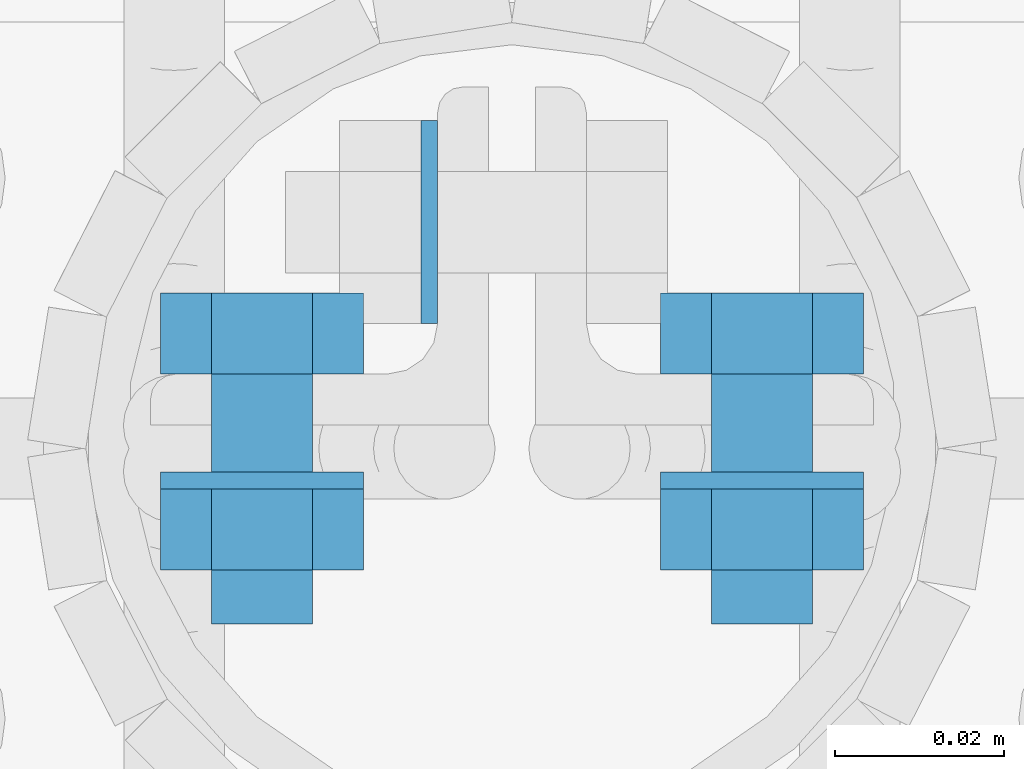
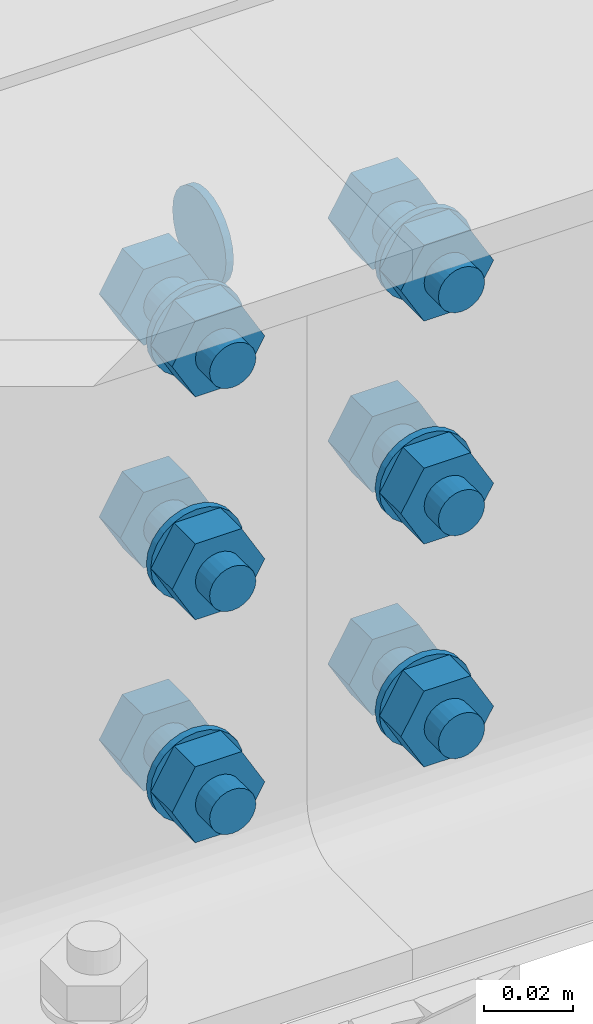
# One storey, part 47 of 84: 25 mechanical fasteners.
"""IFC4 building model written with IfcOpenShell, lengths in metres."""

from ifc_helpers import new_model, si_unit, frame, origin_with_axes, place, context, project, spatial, polyline, outline, extrude, type_object, element, save


model = new_model("IFC4")

# Units and contexts
model_context = context("Model", 3, precision=1e-05, world=origin_with_axes())
ifc_project = project(units=[si_unit("LENGTHUNIT", "METRE"), si_unit("AREAUNIT", "SQUARE_METRE"), si_unit("VOLUMEUNIT", "CUBIC_METRE"), si_unit("MASSUNIT", "GRAM", prefix="KILO"), si_unit("TIMEUNIT", "SECOND"), si_unit("PLANEANGLEUNIT", "RADIAN"), si_unit("SOLIDANGLEUNIT", "STERADIAN"), si_unit("THERMODYNAMICTEMPERATUREUNIT", "DEGREE_CELSIUS")], contexts=[model_context])

# Site, building, storey
placement_1 = place(None, origin_with_axes())
site = spatial("IfcSite", under=ifc_project, at=placement_1, Name="Italia", CompositionType="ELEMENT")
building = spatial("IfcBuilding", under=site, at=placement_1, Name="Tettoia", CompositionType="ELEMENT")
storey_placement = place(None, frame((0.0, 0.0, 4.199999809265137), z_axis=(0.0, 0.0, 1.0), x_axis=(1.0, 0.0, 0.0)))
storey = spatial("IfcBuildingStorey", under=building, at=storey_placement, Name="Storey 1", CompositionType="ELEMENT", Elevation=4.199999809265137)

# Mechanical fasteners
mechanical_fastener_type_1 = type_object("IfcMechanicalFastenerType", Name="Collegamento 0108_0112", PredefinedType="BOLT")
placement_2 = place(placement_1, origin_with_axes())
mechanical_fastener_1_placement = place(placement_2, origin_with_axes())
element("IfcMechanicalFastener", 1, at=mechanical_fastener_1_placement, inside=storey, type_object=mechanical_fastener_type_1, Name="Collegamento 0108_0112", NominalDiameter=0.024, context=model_context, shape_type="SweptSolid", body=[
    extrude(outline(polyline([(0.0, 0.0), (-0.000409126, -0.00310564), (-0.00160789, -0.00600004), (-0.00351524, -0.00848532), (-0.00600052, -0.0103922), (-0.00889397, -0.011591), (-0.0120001, -0.0120001), (-0.0151062, -0.011591), (-0.0179996, -0.0103922), (-0.0204849, -0.00848532), (-0.0223923, -0.00600004), (-0.023591, -0.00310564), (-0.0240002, 0.0), (-0.023591, 0.00310564), (-0.0223923, 0.00600004), (-0.0204849, 0.00848532), (-0.0179996, 0.0103922), (-0.0151062, 0.011591), (-0.0120001, 0.0120001), (-0.00889397, 0.011591), (-0.00600052, 0.0103922), (-0.00351524, 0.00848532), (-0.00160789, 0.00600004), (-0.000409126, 0.00310564), (0.0, 0.0)])), frame((4.0592, 10.0088, 4.361), z_axis=(1.0, 0.0, 0.0), x_axis=(0.0, 1.0, 0.0)), (0.0, 0.0, 1.0), 0.00199986),
])
mechanical_fastener_type_2 = type_object("IfcMechanicalFastenerType", Name="Collegamento 0108_0112", PredefinedType="BOLT")
mechanical_fastener_2_placement = place(placement_2, origin_with_axes())
element("IfcMechanicalFastener", 2, at=mechanical_fastener_2_placement, inside=storey, type_object=mechanical_fastener_type_2, Name="Collegamento 0108_0112", NominalDiameter=0.0119999, context=model_context, shape_type="SweptSolid", body=[
    extrude(outline(polyline([(0.0, 0.0), (-0.0120001, 0.0), (-0.0180001, 0.0103927), (-0.0120001, 0.0207849), (0.0, 0.0207849), (0.00600004, 0.0103927), (0.0, 0.0)])), frame((4.0344, 9.9788, 4.22861), z_axis=(0.0, 1.0, 0.0), x_axis=(-1.0, 0.0, 0.0)), (0.0, 0.0, 1.0), 0.00960064),
])
mechanical_fastener_type_3 = type_object("IfcMechanicalFastenerType", Name="Collegamento 0108_0112", PredefinedType="BOLT")
mechanical_fastener_3_placement = place(placement_2, origin_with_axes())
element("IfcMechanicalFastener", 3, at=mechanical_fastener_3_placement, inside=storey, type_object=mechanical_fastener_type_3, Name="Collegamento 0108_0112", NominalDiameter=0.012, context=model_context, shape_type="SweptSolid", body=[
    extrude(outline(polyline([(0.0, 0.0), (-0.000204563, -0.00155306), (-0.000803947, -0.00299978), (-0.00175762, -0.00424242), (-0.00300026, -0.00519609), (-0.00444698, -0.00579548), (-0.00600004, -0.00600004), (-0.0075531, -0.00579548), (-0.00899982, -0.00519609), (-0.0102425, -0.00424242), (-0.0111961, -0.00299978), (-0.0117955, -0.00155306), (-0.0120001, 0.0), (-0.0117955, 0.00155306), (-0.0111961, 0.00299978), (-0.0102425, 0.00424242), (-0.00899982, 0.00519609), (-0.0075531, 0.00579548), (-0.00600004, 0.00600004), (-0.00444698, 0.00579548), (-0.00300026, 0.00519609), (-0.00175762, 0.00424242), (-0.000803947, 0.00299978), (-0.000204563, 0.00155306), (0.0, 0.0)])), frame((4.0344, 9.9492, 4.239), z_axis=(0.0, 1.0, 0.0), x_axis=(-1.0, 0.0, 0.0)), (0.0, 0.0, 1.0), 0.0295992),
])
mechanical_fastener_type_4 = type_object("IfcMechanicalFastenerType", Name="Collegamento 0108_0112", PredefinedType="BOLT")
mechanical_fastener_4_placement = place(placement_2, origin_with_axes())
element("IfcMechanicalFastener", 4, at=mechanical_fastener_4_placement, inside=storey, type_object=mechanical_fastener_type_4, Name="Collegamento 0108_0112", NominalDiameter=0.0119999, context=model_context, shape_type="SweptSolid", body=[
    extrude(outline(polyline([(0.0, 0.0), (-0.0120001, 0.0), (-0.0180001, 0.0103927), (-0.0120001, 0.0207849), (0.0, 0.0207849), (0.00600004, 0.0103927), (0.0, 0.0)])), frame((4.0344, 9.9556, 4.22861), z_axis=(0.0, 1.0, 0.0), x_axis=(-1.0, 0.0, 0.0)), (0.0, 0.0, 1.0), 0.00960064),
])
mechanical_fastener_type_5 = type_object("IfcMechanicalFastenerType", Name="Collegamento 0108_0112", PredefinedType="BOLT")
mechanical_fastener_5_placement = place(placement_2, origin_with_axes())
element("IfcMechanicalFastener", 5, at=mechanical_fastener_5_placement, inside=storey, type_object=mechanical_fastener_type_5, Name="Collegamento 0108_0112", NominalDiameter=0.024, context=model_context, shape_type="SweptSolid", body=[
    extrude(outline(polyline([(0.0, 0.0), (-0.000409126, -0.00310564), (-0.00160789, -0.00600004), (-0.00351477, -0.00848532), (-0.00600004, -0.0103922), (-0.00889444, -0.011591), (-0.0120001, -0.0120001), (-0.0151057, -0.011591), (-0.0180001, -0.0103922), (-0.0204854, -0.00848532), (-0.0223923, -0.00600004), (-0.023591, -0.00310564), (-0.0240002, 0.0), (-0.023591, 0.00310564), (-0.0223923, 0.00600004), (-0.0204854, 0.00848532), (-0.0180001, 0.0103922), (-0.0151057, 0.011591), (-0.0120001, 0.0120001), (-0.00889444, 0.011591), (-0.00600004, 0.0103922), (-0.00351477, 0.00848532), (-0.00160789, 0.00600004), (-0.000409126, 0.00310564), (0.0, 0.0)])), frame((4.0284, 9.9652, 4.239), z_axis=(0.0, 1.0, 0.0), x_axis=(-1.0, 0.0, 0.0)), (0.0, 0.0, 1.0), 0.00199986),
])
mechanical_fastener_type_6 = type_object("IfcMechanicalFastenerType", Name="Collegamento 0108_0112", PredefinedType="BOLT")
mechanical_fastener_6_placement = place(placement_2, origin_with_axes())
element("IfcMechanicalFastener", 6, at=mechanical_fastener_6_placement, inside=storey, type_object=mechanical_fastener_type_6, Name="Collegamento 0108_0112", NominalDiameter=0.0119999, context=model_context, shape_type="SweptSolid", body=[
    extrude(outline(polyline([(0.0, 0.0), (-0.0120001, 0.0), (-0.0180001, 0.0103922), (-0.0120001, 0.0207844), (0.0, 0.0207844), (0.00600004, 0.0103922), (0.0, 0.0)])), frame((4.0344, 9.9788, 4.28961), z_axis=(0.0, 1.0, 0.0), x_axis=(-1.0, 0.0, 0.0)), (0.0, 0.0, 1.0), 0.00960064),
])
mechanical_fastener_type_7 = type_object("IfcMechanicalFastenerType", Name="Collegamento 0108_0112", PredefinedType="BOLT")
mechanical_fastener_7_placement = place(placement_2, origin_with_axes())
element("IfcMechanicalFastener", 7, at=mechanical_fastener_7_placement, inside=storey, type_object=mechanical_fastener_type_7, Name="Collegamento 0108_0112", NominalDiameter=0.012, context=model_context, shape_type="SweptSolid", body=[
    extrude(outline(polyline([(0.0, 0.0), (-0.000204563, -0.00155306), (-0.000803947, -0.00299978), (-0.00175762, -0.00424242), (-0.00300026, -0.00519609), (-0.00444698, -0.00579548), (-0.00600004, -0.00600004), (-0.0075531, -0.00579548), (-0.00899982, -0.00519609), (-0.0102425, -0.00424242), (-0.0111961, -0.00299978), (-0.0117955, -0.00155306), (-0.0120001, 0.0), (-0.0117955, 0.00155306), (-0.0111961, 0.00299978), (-0.0102425, 0.00424242), (-0.00899982, 0.00519609), (-0.0075531, 0.00579548), (-0.00600004, 0.00600004), (-0.00444698, 0.00579548), (-0.00300026, 0.00519609), (-0.00175762, 0.00424242), (-0.000803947, 0.00299978), (-0.000204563, 0.00155306), (0.0, 0.0)])), frame((4.0344, 9.9492, 4.3), z_axis=(0.0, 1.0, 0.0), x_axis=(-1.0, 0.0, 0.0)), (0.0, 0.0, 1.0), 0.0295992),
])
mechanical_fastener_type_8 = type_object("IfcMechanicalFastenerType", Name="Collegamento 0108_0112", PredefinedType="BOLT")
mechanical_fastener_8_placement = place(placement_2, origin_with_axes())
element("IfcMechanicalFastener", 8, at=mechanical_fastener_8_placement, inside=storey, type_object=mechanical_fastener_type_8, Name="Collegamento 0108_0112", NominalDiameter=0.0119999, context=model_context, shape_type="SweptSolid", body=[
    extrude(outline(polyline([(0.0, 0.0), (-0.0120001, 0.0), (-0.0180001, 0.0103922), (-0.0120001, 0.0207844), (0.0, 0.0207844), (0.00600004, 0.0103922), (0.0, 0.0)])), frame((4.0344, 9.9556, 4.28961), z_axis=(0.0, 1.0, 0.0), x_axis=(-1.0, 0.0, 0.0)), (0.0, 0.0, 1.0), 0.00960064),
])
mechanical_fastener_type_9 = type_object("IfcMechanicalFastenerType", Name="Collegamento 0108_0112", PredefinedType="BOLT")
mechanical_fastener_9_placement = place(placement_2, origin_with_axes())
element("IfcMechanicalFastener", 9, at=mechanical_fastener_9_placement, inside=storey, type_object=mechanical_fastener_type_9, Name="Collegamento 0108_0112", NominalDiameter=0.024, context=model_context, shape_type="SweptSolid", body=[
    extrude(outline(polyline([(0.0, 0.0), (-0.000409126, -0.00310564), (-0.00160789, -0.00600004), (-0.00351477, -0.00848532), (-0.00600004, -0.0103922), (-0.00889444, -0.011591), (-0.0120001, -0.0120001), (-0.0151057, -0.011591), (-0.0180001, -0.0103922), (-0.0204854, -0.00848532), (-0.0223923, -0.00600004), (-0.023591, -0.00310564), (-0.0240002, 0.0), (-0.023591, 0.00310564), (-0.0223923, 0.00600004), (-0.0204854, 0.00848532), (-0.0180001, 0.0103922), (-0.0151057, 0.011591), (-0.0120001, 0.0120001), (-0.00889444, 0.011591), (-0.00600004, 0.0103922), (-0.00351477, 0.00848532), (-0.00160789, 0.00600004), (-0.000409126, 0.00310564), (0.0, 0.0)])), frame((4.0284, 9.9652, 4.3), z_axis=(0.0, 1.0, 0.0), x_axis=(-1.0, 0.0, 0.0)), (0.0, 0.0, 1.0), 0.00199986),
])
mechanical_fastener_type_10 = type_object("IfcMechanicalFastenerType", Name="Collegamento 0108_0112", PredefinedType="BOLT")
mechanical_fastener_10_placement = place(placement_2, origin_with_axes())
element("IfcMechanicalFastener", 10, at=mechanical_fastener_10_placement, inside=storey, type_object=mechanical_fastener_type_10, Name="Collegamento 0108_0112", NominalDiameter=0.0119999, context=model_context, shape_type="SweptSolid", body=[
    extrude(outline(polyline([(0.0, 0.0), (-0.0120001, 0.0), (-0.0180001, 0.0103922), (-0.0120001, 0.0207849), (0.0, 0.0207849), (0.00600004, 0.0103922), (0.0, 0.0)])), frame((4.0344, 9.9788, 4.35061), z_axis=(0.0, 1.0, 0.0), x_axis=(-1.0, 0.0, 0.0)), (0.0, 0.0, 1.0), 0.00960064),
])
mechanical_fastener_type_11 = type_object("IfcMechanicalFastenerType", Name="Collegamento 0108_0112", PredefinedType="BOLT")
mechanical_fastener_11_placement = place(placement_2, origin_with_axes())
element("IfcMechanicalFastener", 11, at=mechanical_fastener_11_placement, inside=storey, type_object=mechanical_fastener_type_11, Name="Collegamento 0108_0112", NominalDiameter=0.012, context=model_context, shape_type="SweptSolid", body=[
    extrude(outline(polyline([(0.0, 0.0), (-0.000204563, -0.00155306), (-0.000803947, -0.00299978), (-0.00175762, -0.00424242), (-0.00300026, -0.00519609), (-0.00444698, -0.00579548), (-0.00600004, -0.00600004), (-0.0075531, -0.00579548), (-0.00899982, -0.00519609), (-0.0102425, -0.00424242), (-0.0111961, -0.00299978), (-0.0117955, -0.00155306), (-0.0120001, 0.0), (-0.0117955, 0.00155306), (-0.0111961, 0.00299978), (-0.0102425, 0.00424242), (-0.00899982, 0.00519609), (-0.0075531, 0.00579548), (-0.00600004, 0.00600004), (-0.00444698, 0.00579548), (-0.00300026, 0.00519609), (-0.00175762, 0.00424242), (-0.000803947, 0.00299978), (-0.000204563, 0.00155306), (0.0, 0.0)])), frame((4.0344, 9.9492, 4.361), z_axis=(0.0, 1.0, 0.0), x_axis=(-1.0, 0.0, 0.0)), (0.0, 0.0, 1.0), 0.0295992),
])
mechanical_fastener_type_12 = type_object("IfcMechanicalFastenerType", Name="Collegamento 0108_0112", PredefinedType="BOLT")
mechanical_fastener_12_placement = place(placement_2, origin_with_axes())
element("IfcMechanicalFastener", 12, at=mechanical_fastener_12_placement, inside=storey, type_object=mechanical_fastener_type_12, Name="Collegamento 0108_0112", NominalDiameter=0.0119999, context=model_context, shape_type="SweptSolid", body=[
    extrude(outline(polyline([(0.0, 0.0), (-0.0120001, 0.0), (-0.0180001, 0.0103922), (-0.0120001, 0.0207849), (0.0, 0.0207849), (0.00600004, 0.0103922), (0.0, 0.0)])), frame((4.0344, 9.9556, 4.35061), z_axis=(0.0, 1.0, 0.0), x_axis=(-1.0, 0.0, 0.0)), (0.0, 0.0, 1.0), 0.00960064),
])
mechanical_fastener_type_13 = type_object("IfcMechanicalFastenerType", Name="Collegamento 0108_0112", PredefinedType="BOLT")
mechanical_fastener_13_placement = place(placement_2, origin_with_axes())
element("IfcMechanicalFastener", 13, at=mechanical_fastener_13_placement, inside=storey, type_object=mechanical_fastener_type_13, Name="Collegamento 0108_0112", NominalDiameter=0.024, context=model_context, shape_type="SweptSolid", body=[
    extrude(outline(polyline([(0.0, 0.0), (-0.000409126, -0.00310564), (-0.00160789, -0.00600004), (-0.00351477, -0.00848532), (-0.00600004, -0.0103922), (-0.00889444, -0.011591), (-0.0120001, -0.0120001), (-0.0151057, -0.011591), (-0.0180001, -0.0103922), (-0.0204854, -0.00848532), (-0.0223923, -0.00600004), (-0.023591, -0.00310564), (-0.0240002, 0.0), (-0.023591, 0.00310564), (-0.0223923, 0.00600004), (-0.0204854, 0.00848532), (-0.0180001, 0.0103922), (-0.0151057, 0.011591), (-0.0120001, 0.0120001), (-0.00889444, 0.011591), (-0.00600004, 0.0103922), (-0.00351477, 0.00848532), (-0.00160789, 0.00600004), (-0.000409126, 0.00310564), (0.0, 0.0)])), frame((4.0284, 9.9652, 4.361), z_axis=(0.0, 1.0, 0.0), x_axis=(-1.0, 0.0, 0.0)), (0.0, 0.0, 1.0), 0.00199986),
])
mechanical_fastener_type_14 = type_object("IfcMechanicalFastenerType", Name="Collegamento 0108_0112", PredefinedType="BOLT")
mechanical_fastener_14_placement = place(placement_2, origin_with_axes())
element("IfcMechanicalFastener", 14, at=mechanical_fastener_14_placement, inside=storey, type_object=mechanical_fastener_type_14, Name="Collegamento 0108_0112", NominalDiameter=0.0119999, context=model_context, shape_type="SweptSolid", body=[
    extrude(outline(polyline([(0.0, 0.0), (-0.0120001, 0.0), (-0.0180001, 0.0103927), (-0.0120001, 0.0207849), (0.0, 0.0207849), (0.00600004, 0.0103927), (0.0, 0.0)])), frame((4.1056, 9.9884, 4.22861), z_axis=(0.0, -1.0, 0.0), x_axis=(1.0, 0.0, 0.0)), (0.0, 0.0, 1.0), 0.00960064),
])
mechanical_fastener_type_15 = type_object("IfcMechanicalFastenerType", Name="Collegamento 0108_0112", PredefinedType="BOLT")
mechanical_fastener_15_placement = place(placement_2, origin_with_axes())
element("IfcMechanicalFastener", 15, at=mechanical_fastener_15_placement, inside=storey, type_object=mechanical_fastener_type_15, Name="Collegamento 0108_0112", NominalDiameter=0.012, context=model_context, shape_type="SweptSolid", body=[
    extrude(outline(polyline([(0.0, 0.0), (-0.000204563, -0.00155306), (-0.000803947, -0.00299978), (-0.00175762, -0.00424242), (-0.00300026, -0.00519609), (-0.00444698, -0.00579548), (-0.00600004, -0.00600004), (-0.0075531, -0.00579548), (-0.00899982, -0.00519609), (-0.0102425, -0.00424242), (-0.0111961, -0.00299978), (-0.0117955, -0.00155306), (-0.0120001, 0.0), (-0.0117955, 0.00155306), (-0.0111961, 0.00299978), (-0.0102425, 0.00424242), (-0.00899982, 0.00519609), (-0.0075531, 0.00579548), (-0.00600004, 0.00600004), (-0.00444698, 0.00579548), (-0.00300026, 0.00519609), (-0.00175762, 0.00424242), (-0.000803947, 0.00299978), (-0.000204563, 0.00155306), (0.0, 0.0)])), frame((4.1056, 9.9788, 4.239), z_axis=(0.0, -1.0, 0.0), x_axis=(1.0, 0.0, 0.0)), (0.0, 0.0, 1.0), 0.0295992),
])
mechanical_fastener_type_16 = type_object("IfcMechanicalFastenerType", Name="Collegamento 0108_0112", PredefinedType="BOLT")
mechanical_fastener_16_placement = place(placement_2, origin_with_axes())
element("IfcMechanicalFastener", 16, at=mechanical_fastener_16_placement, inside=storey, type_object=mechanical_fastener_type_16, Name="Collegamento 0108_0112", NominalDiameter=0.0119999, context=model_context, shape_type="SweptSolid", body=[
    extrude(outline(polyline([(0.0, 0.0), (-0.0120001, 0.0), (-0.0180001, 0.0103927), (-0.0120001, 0.0207849), (0.0, 0.0207849), (0.00600004, 0.0103927), (0.0, 0.0)])), frame((4.1056, 9.9652, 4.22861), z_axis=(0.0, -1.0, 0.0), x_axis=(1.0, 0.0, 0.0)), (0.0, 0.0, 1.0), 0.00960064),
])
mechanical_fastener_type_17 = type_object("IfcMechanicalFastenerType", Name="Collegamento 0108_0112", PredefinedType="BOLT")
mechanical_fastener_17_placement = place(placement_2, origin_with_axes())
element("IfcMechanicalFastener", 17, at=mechanical_fastener_17_placement, inside=storey, type_object=mechanical_fastener_type_17, Name="Collegamento 0108_0112", NominalDiameter=0.024, context=model_context, shape_type="SweptSolid", body=[
    extrude(outline(polyline([(0.0, 0.0), (-0.000409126, -0.00310564), (-0.00160789, -0.00600004), (-0.00351477, -0.00848532), (-0.00600004, -0.0103922), (-0.00889444, -0.011591), (-0.0120001, -0.0120001), (-0.0151057, -0.011591), (-0.0180001, -0.0103922), (-0.0204854, -0.00848532), (-0.0223923, -0.00600004), (-0.023591, -0.00310564), (-0.0240002, 0.0), (-0.023591, 0.00310564), (-0.0223923, 0.00600004), (-0.0204854, 0.00848532), (-0.0180001, 0.0103922), (-0.0151057, 0.011591), (-0.0120001, 0.0120001), (-0.00889444, 0.011591), (-0.00600004, 0.0103922), (-0.00351477, 0.00848532), (-0.00160789, 0.00600004), (-0.000409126, 0.00310564), (0.0, 0.0)])), frame((4.1116, 9.9672, 4.239), z_axis=(0.0, -1.0, 0.0), x_axis=(1.0, 0.0, 0.0)), (0.0, 0.0, 1.0), 0.00199986),
])
mechanical_fastener_type_18 = type_object("IfcMechanicalFastenerType", Name="Collegamento 0108_0112", PredefinedType="BOLT")
mechanical_fastener_18_placement = place(placement_2, origin_with_axes())
element("IfcMechanicalFastener", 18, at=mechanical_fastener_18_placement, inside=storey, type_object=mechanical_fastener_type_18, Name="Collegamento 0108_0112", NominalDiameter=0.0119999, context=model_context, shape_type="SweptSolid", body=[
    extrude(outline(polyline([(0.0, 0.0), (-0.0120001, 0.0), (-0.0180001, 0.0103922), (-0.0120001, 0.0207844), (0.0, 0.0207844), (0.00600004, 0.0103922), (0.0, 0.0)])), frame((4.1056, 9.9884, 4.28961), z_axis=(0.0, -1.0, 0.0), x_axis=(1.0, 0.0, 0.0)), (0.0, 0.0, 1.0), 0.00960064),
])
mechanical_fastener_type_19 = type_object("IfcMechanicalFastenerType", Name="Collegamento 0108_0112", PredefinedType="BOLT")
mechanical_fastener_19_placement = place(placement_2, origin_with_axes())
element("IfcMechanicalFastener", 19, at=mechanical_fastener_19_placement, inside=storey, type_object=mechanical_fastener_type_19, Name="Collegamento 0108_0112", NominalDiameter=0.012, context=model_context, shape_type="SweptSolid", body=[
    extrude(outline(polyline([(0.0, 0.0), (-0.000204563, -0.00155306), (-0.000803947, -0.00299978), (-0.00175762, -0.00424242), (-0.00300026, -0.00519609), (-0.00444698, -0.00579548), (-0.00600004, -0.00600004), (-0.0075531, -0.00579548), (-0.00899982, -0.00519609), (-0.0102425, -0.00424242), (-0.0111961, -0.00299978), (-0.0117955, -0.00155306), (-0.0120001, 0.0), (-0.0117955, 0.00155306), (-0.0111961, 0.00299978), (-0.0102425, 0.00424242), (-0.00899982, 0.00519609), (-0.0075531, 0.00579548), (-0.00600004, 0.00600004), (-0.00444698, 0.00579548), (-0.00300026, 0.00519609), (-0.00175762, 0.00424242), (-0.000803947, 0.00299978), (-0.000204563, 0.00155306), (0.0, 0.0)])), frame((4.1056, 9.9788, 4.3), z_axis=(0.0, -1.0, 0.0), x_axis=(1.0, 0.0, 0.0)), (0.0, 0.0, 1.0), 0.0295992),
])
mechanical_fastener_type_20 = type_object("IfcMechanicalFastenerType", Name="Collegamento 0108_0112", PredefinedType="BOLT")
mechanical_fastener_20_placement = place(placement_2, origin_with_axes())
element("IfcMechanicalFastener", 20, at=mechanical_fastener_20_placement, inside=storey, type_object=mechanical_fastener_type_20, Name="Collegamento 0108_0112", NominalDiameter=0.0119999, context=model_context, shape_type="SweptSolid", body=[
    extrude(outline(polyline([(0.0, 0.0), (-0.0120001, 0.0), (-0.0180001, 0.0103922), (-0.0120001, 0.0207844), (0.0, 0.0207844), (0.00600004, 0.0103922), (0.0, 0.0)])), frame((4.1056, 9.9652, 4.28961), z_axis=(0.0, -1.0, 0.0), x_axis=(1.0, 0.0, 0.0)), (0.0, 0.0, 1.0), 0.00960064),
])
mechanical_fastener_type_21 = type_object("IfcMechanicalFastenerType", Name="Collegamento 0108_0112", PredefinedType="BOLT")
mechanical_fastener_21_placement = place(placement_2, origin_with_axes())
element("IfcMechanicalFastener", 21, at=mechanical_fastener_21_placement, inside=storey, type_object=mechanical_fastener_type_21, Name="Collegamento 0108_0112", NominalDiameter=0.024, context=model_context, shape_type="SweptSolid", body=[
    extrude(outline(polyline([(0.0, 0.0), (-0.000409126, -0.00310564), (-0.00160789, -0.00600004), (-0.00351477, -0.00848532), (-0.00600004, -0.0103922), (-0.00889444, -0.011591), (-0.0120001, -0.0120001), (-0.0151057, -0.011591), (-0.0180001, -0.0103922), (-0.0204854, -0.00848532), (-0.0223923, -0.00600004), (-0.023591, -0.00310564), (-0.0240002, 0.0), (-0.023591, 0.00310564), (-0.0223923, 0.00600004), (-0.0204854, 0.00848532), (-0.0180001, 0.0103922), (-0.0151057, 0.011591), (-0.0120001, 0.0120001), (-0.00889444, 0.011591), (-0.00600004, 0.0103922), (-0.00351477, 0.00848532), (-0.00160789, 0.00600004), (-0.000409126, 0.00310564), (0.0, 0.0)])), frame((4.1116, 9.9672, 4.3), z_axis=(0.0, -1.0, 0.0), x_axis=(1.0, 0.0, 0.0)), (0.0, 0.0, 1.0), 0.00199986),
])
mechanical_fastener_type_22 = type_object("IfcMechanicalFastenerType", Name="Collegamento 0108_0112", PredefinedType="BOLT")
mechanical_fastener_22_placement = place(placement_2, origin_with_axes())
element("IfcMechanicalFastener", 22, at=mechanical_fastener_22_placement, inside=storey, type_object=mechanical_fastener_type_22, Name="Collegamento 0108_0112", NominalDiameter=0.0119999, context=model_context, shape_type="SweptSolid", body=[
    extrude(outline(polyline([(0.0, 0.0), (-0.0120001, 0.0), (-0.0180001, 0.0103922), (-0.0120001, 0.0207849), (0.0, 0.0207849), (0.00600004, 0.0103922), (0.0, 0.0)])), frame((4.1056, 9.9884, 4.35061), z_axis=(0.0, -1.0, 0.0), x_axis=(1.0, 0.0, 0.0)), (0.0, 0.0, 1.0), 0.00960064),
])
mechanical_fastener_type_23 = type_object("IfcMechanicalFastenerType", Name="Collegamento 0108_0112", PredefinedType="BOLT")
mechanical_fastener_23_placement = place(placement_2, origin_with_axes())
element("IfcMechanicalFastener", 23, at=mechanical_fastener_23_placement, inside=storey, type_object=mechanical_fastener_type_23, Name="Collegamento 0108_0112", NominalDiameter=0.012, context=model_context, shape_type="SweptSolid", body=[
    extrude(outline(polyline([(0.0, 0.0), (-0.000204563, -0.00155306), (-0.000803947, -0.00299978), (-0.00175762, -0.00424242), (-0.00300026, -0.00519609), (-0.00444698, -0.00579548), (-0.00600004, -0.00600004), (-0.0075531, -0.00579548), (-0.00899982, -0.00519609), (-0.0102425, -0.00424242), (-0.0111961, -0.00299978), (-0.0117955, -0.00155306), (-0.0120001, 0.0), (-0.0117955, 0.00155306), (-0.0111961, 0.00299978), (-0.0102425, 0.00424242), (-0.00899982, 0.00519609), (-0.0075531, 0.00579548), (-0.00600004, 0.00600004), (-0.00444698, 0.00579548), (-0.00300026, 0.00519609), (-0.00175762, 0.00424242), (-0.000803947, 0.00299978), (-0.000204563, 0.00155306), (0.0, 0.0)])), frame((4.1056, 9.9788, 4.361), z_axis=(0.0, -1.0, 0.0), x_axis=(1.0, 0.0, 0.0)), (0.0, 0.0, 1.0), 0.0295992),
])
mechanical_fastener_type_24 = type_object("IfcMechanicalFastenerType", Name="Collegamento 0108_0112", PredefinedType="BOLT")
mechanical_fastener_24_placement = place(placement_2, origin_with_axes())
element("IfcMechanicalFastener", 24, at=mechanical_fastener_24_placement, inside=storey, type_object=mechanical_fastener_type_24, Name="Collegamento 0108_0112", NominalDiameter=0.0119999, context=model_context, shape_type="SweptSolid", body=[
    extrude(outline(polyline([(0.0, 0.0), (-0.0120001, 0.0), (-0.0180001, 0.0103922), (-0.0120001, 0.0207849), (0.0, 0.0207849), (0.00600004, 0.0103922), (0.0, 0.0)])), frame((4.1056, 9.9652, 4.35061), z_axis=(0.0, -1.0, 0.0), x_axis=(1.0, 0.0, 0.0)), (0.0, 0.0, 1.0), 0.00960064),
])
mechanical_fastener_type_25 = type_object("IfcMechanicalFastenerType", Name="Collegamento 0108_0112", PredefinedType="BOLT")
mechanical_fastener_25_placement = place(placement_2, origin_with_axes())
element("IfcMechanicalFastener", 25, at=mechanical_fastener_25_placement, inside=storey, type_object=mechanical_fastener_type_25, Name="Collegamento 0108_0112", NominalDiameter=0.024, context=model_context, shape_type="SweptSolid", body=[
    extrude(outline(polyline([(0.0, 0.0), (-0.000409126, -0.00310564), (-0.00160789, -0.00600004), (-0.00351477, -0.00848532), (-0.00600004, -0.0103922), (-0.00889444, -0.011591), (-0.0120001, -0.0120001), (-0.0151057, -0.011591), (-0.0180001, -0.0103922), (-0.0204854, -0.00848532), (-0.0223923, -0.00600004), (-0.023591, -0.00310564), (-0.0240002, 0.0), (-0.023591, 0.00310564), (-0.0223923, 0.00600004), (-0.0204854, 0.00848532), (-0.0180001, 0.0103922), (-0.0151057, 0.011591), (-0.0120001, 0.0120001), (-0.00889444, 0.011591), (-0.00600004, 0.0103922), (-0.00351477, 0.00848532), (-0.00160789, 0.00600004), (-0.000409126, 0.00310564), (0.0, 0.0)])), frame((4.1116, 9.9672, 4.361), z_axis=(0.0, -1.0, 0.0), x_axis=(1.0, 0.0, 0.0)), (0.0, 0.0, 1.0), 0.00199986),
])

save(model, "model.ifc")
